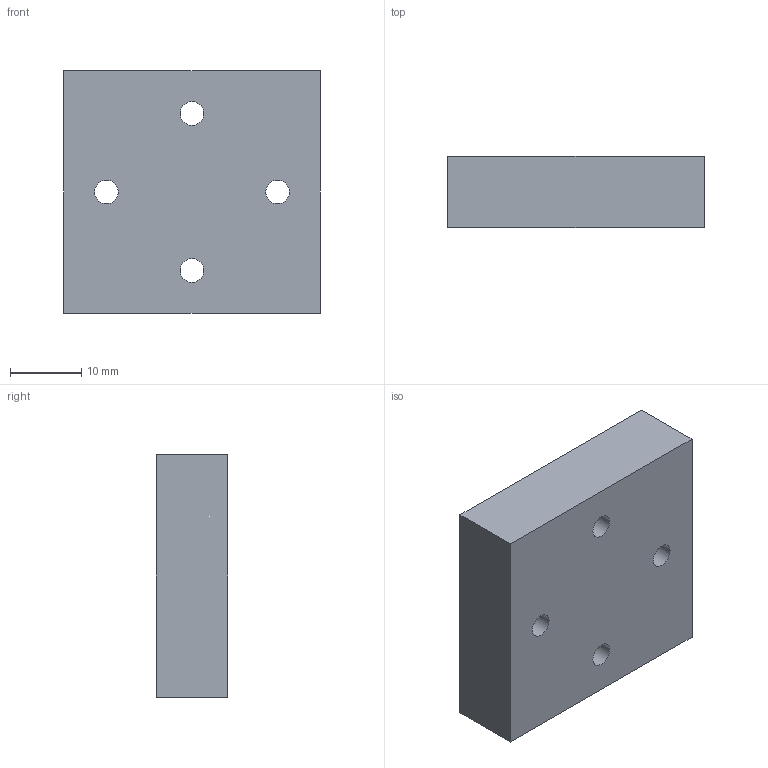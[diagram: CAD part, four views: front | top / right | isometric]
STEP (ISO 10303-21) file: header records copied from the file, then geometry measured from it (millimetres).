
FILE_DESCRIPTION(('Open CASCADE Model'),'2;1');
FILE_NAME('Open CASCADE Shape Model','2026-11-08T06:43:57',('Author'),( 'Open CASCADE'),'Open CASCADE STEP processor 7.8','Open CASCADE 7.8' ,'Unknown');
FILE_SCHEMA(('AUTOMOTIVE_DESIGN { 1 0 10303 214 1 1 1 1 }'));
Length unit declared in the file: millimetre
Products named in the file (1): Open CASCADE STEP translator 7.8 4
Bounding box: 36 x 10 x 34 mm (x, y, z)
Volume: 11897.9 mm3; surface area: 4194.3 mm2
Topology: 1 solids, 1 shells, 10 faces, 24 edges, 16 vertices
Faces by surface type: plane 6, cylinder 4
Full cylindrical faces by diameter (mm): 3.3 x4
Entity records: 634 total; most frequent: DIRECTION 102, CARTESIAN_POINT 99, LINE 56, VECTOR 56, ORIENTED_EDGE 48, PCURVE 48, DEFINITIONAL_REPRESENTATION 48, EDGE_CURVE 24
